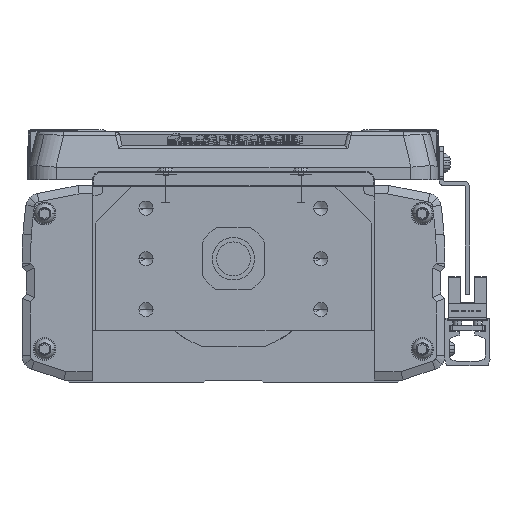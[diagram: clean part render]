
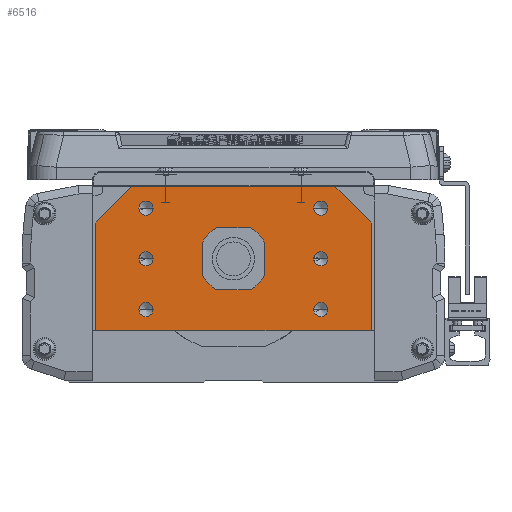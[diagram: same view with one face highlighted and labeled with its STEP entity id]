
A CAD part, left-side view. The second image highlights one B-rep face of the part: STEP entity #6516.
In plain terms, the highlighted planar face has unit normal (-1, 0, 0).
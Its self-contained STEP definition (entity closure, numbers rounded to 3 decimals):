
#6516=ADVANCED_FACE('',(#13843,#13844,#13845,#13846,#13847,#13848,#13849,#13850),#13851,.F.);
#13843=FACE_OUTER_BOUND('',#23088,.T.);
#13844=FACE_BOUND('',#23089,.T.);
#13845=FACE_BOUND('',#23090,.T.);
#13846=FACE_BOUND('',#23091,.T.);
#13847=FACE_BOUND('',#23092,.T.);
#13848=FACE_BOUND('',#23093,.T.);
#13849=FACE_BOUND('',#23094,.T.);
#13850=FACE_BOUND('',#23095,.T.);
#13851=PLANE('',#23096);
#23088=EDGE_LOOP('',(#41570,#41571,#41572,#41573,#41574,#41575,#41576,#41577));
#23089=EDGE_LOOP('',(#41578,#41579));
#23090=EDGE_LOOP('',(#41580,#41581));
#23091=EDGE_LOOP('',(#41582,#41583));
#23092=EDGE_LOOP('',(#41584,#41585));
#23093=EDGE_LOOP('',(#41586,#41587));
#23094=EDGE_LOOP('',(#41588,#41589));
#23095=EDGE_LOOP('',(#41590,#41591));
#23096=AXIS2_PLACEMENT_3D('',#41592,#41593,#41594);
#41570=ORIENTED_EDGE('',*,*,#53256,.F.);
#41571=ORIENTED_EDGE('',*,*,#57041,.F.);
#41572=ORIENTED_EDGE('',*,*,#57042,.F.);
#41573=ORIENTED_EDGE('',*,*,#57043,.F.);
#41574=ORIENTED_EDGE('',*,*,#57044,.F.);
#41575=ORIENTED_EDGE('',*,*,#56374,.F.);
#41576=ORIENTED_EDGE('',*,*,#56722,.F.);
#41577=ORIENTED_EDGE('',*,*,#55483,.F.);
#41578=ORIENTED_EDGE('',*,*,#56716,.T.);
#41579=ORIENTED_EDGE('',*,*,#57045,.T.);
#41580=ORIENTED_EDGE('',*,*,#57046,.T.);
#41581=ORIENTED_EDGE('',*,*,#53348,.T.);
#41582=ORIENTED_EDGE('',*,*,#57047,.T.);
#41583=ORIENTED_EDGE('',*,*,#56526,.T.);
#41584=ORIENTED_EDGE('',*,*,#53541,.T.);
#41585=ORIENTED_EDGE('',*,*,#55701,.T.);
#41586=ORIENTED_EDGE('',*,*,#57048,.T.);
#41587=ORIENTED_EDGE('',*,*,#57049,.T.);
#41588=ORIENTED_EDGE('',*,*,#57050,.T.);
#41589=ORIENTED_EDGE('',*,*,#57051,.T.);
#41590=ORIENTED_EDGE('',*,*,#56747,.F.);
#41591=ORIENTED_EDGE('',*,*,#51491,.F.);
#41592=CARTESIAN_POINT('',(0.,0.275,-2.548));
#41593=DIRECTION('',(1.0,0.,0.));
#41594=DIRECTION('',(0.,1.0,0.));
#51491=EDGE_CURVE('',#62022,#62025,#62026,.F.);
#53256=EDGE_CURVE('',#64897,#64898,#64899,.T.);
#53348=EDGE_CURVE('',#65044,#65042,#65045,.T.);
#53541=EDGE_CURVE('',#65327,#65331,#65333,.T.);
#55483=EDGE_CURVE('',#64898,#68183,#68184,.T.);
#55701=EDGE_CURVE('',#65331,#65327,#68470,.T.);
#56374=EDGE_CURVE('',#69347,#69350,#69351,.T.);
#56526=EDGE_CURVE('',#69552,#69550,#69553,.T.);
#56716=EDGE_CURVE('',#69786,#69790,#69792,.T.);
#56722=EDGE_CURVE('',#68183,#69347,#69799,.T.);
#56747=EDGE_CURVE('',#62025,#62022,#69828,.F.);
#57041=EDGE_CURVE('',#70197,#64897,#70198,.T.);
#57042=EDGE_CURVE('',#70199,#70197,#70200,.T.);
#57043=EDGE_CURVE('',#70201,#70199,#70202,.T.);
#57044=EDGE_CURVE('',#69350,#70201,#70203,.T.);
#57045=EDGE_CURVE('',#69790,#69786,#70204,.T.);
#57046=EDGE_CURVE('',#65042,#65044,#70205,.T.);
#57047=EDGE_CURVE('',#69550,#69552,#70206,.T.);
#57048=EDGE_CURVE('',#70207,#70208,#70209,.T.);
#57049=EDGE_CURVE('',#70208,#70207,#70210,.T.);
#57050=EDGE_CURVE('',#70211,#70212,#70213,.T.);
#57051=EDGE_CURVE('',#70212,#70211,#70214,.T.);
#62022=VERTEX_POINT('',#76597);
#62025=VERTEX_POINT('',#76601);
#62026=CIRCLE('',#76602,7.5);
#64897=VERTEX_POINT('',#80812);
#64898=VERTEX_POINT('',#80813);
#64899=LINE('',#80814,#80815);
#65042=VERTEX_POINT('',#81026);
#65044=VERTEX_POINT('',#81029);
#65045=CIRCLE('',#81030,2.5);
#65327=VERTEX_POINT('',#81497);
#65331=VERTEX_POINT('',#81502);
#65333=CIRCLE('',#81505,2.5);
#68183=VERTEX_POINT('',#85868);
#68184=LINE('',#85869,#85870);
#68470=CIRCLE('',#86452,2.5);
#69347=VERTEX_POINT('',#87630);
#69350=VERTEX_POINT('',#87634);
#69351=LINE('',#87635,#87636);
#69550=VERTEX_POINT('',#87907);
#69552=VERTEX_POINT('',#87910);
#69553=CIRCLE('',#87911,2.5);
#69786=VERTEX_POINT('',#88219);
#69790=VERTEX_POINT('',#88224);
#69792=CIRCLE('',#88227,2.5);
#69799=LINE('',#88236,#88237);
#69828=CIRCLE('',#88275,7.5);
#70197=VERTEX_POINT('',#88774);
#70198=LINE('',#88775,#88776);
#70199=VERTEX_POINT('',#88777);
#70200=LINE('',#88778,#88779);
#70201=VERTEX_POINT('',#88780);
#70202=LINE('',#88781,#88782);
#70203=LINE('',#88783,#88784);
#70204=CIRCLE('',#88785,2.5);
#70205=CIRCLE('',#88786,2.5);
#70206=CIRCLE('',#88787,2.5);
#70207=VERTEX_POINT('',#88788);
#70208=VERTEX_POINT('',#88789);
#70209=CIRCLE('',#88790,2.5);
#70210=CIRCLE('',#88791,2.5);
#70211=VERTEX_POINT('',#88792);
#70212=VERTEX_POINT('',#88793);
#70213=CIRCLE('',#88794,2.5);
#70214=CIRCLE('',#88795,2.5);
#76597=CARTESIAN_POINT('',(0.,-7.5,0.));
#76601=CARTESIAN_POINT('',(0.,7.5,0.));
#76602=AXIS2_PLACEMENT_3D('',#93888,#93889,#93890);
#80812=CARTESIAN_POINT('',(0.,49.,12.7));
#80813=CARTESIAN_POINT('',(0.,36.,25.7));
#80814=CARTESIAN_POINT('',(0.,37.381,24.319));
#80815=VECTOR('',#96320,10.);
#81026=CARTESIAN_POINT('',(0.,-33.5,-18.));
#81029=CARTESIAN_POINT('',(0.,-28.5,-18.));
#81030=AXIS2_PLACEMENT_3D('',#96430,#96431,#96432);
#81497=CARTESIAN_POINT('',(0.,-33.5,18.));
#81502=CARTESIAN_POINT('',(0.,-28.5,18.));
#81505=AXIS2_PLACEMENT_3D('',#96678,#96679,#96680);
#85868=CARTESIAN_POINT('',(0.,-36.,25.7));
#85869=CARTESIAN_POINT('',(0.,34.5,25.7));
#85870=VECTOR('',#99115,10.0);
#86452=AXIS2_PLACEMENT_3D('',#99358,#99359,#99360);
#87630=CARTESIAN_POINT('',(0.,-49.,12.7));
#87634=CARTESIAN_POINT('',(0.,-49.,-25.));
#87635=CARTESIAN_POINT('',(0.,-49.,-14.));
#87636=VECTOR('',#100144,10.0);
#87907=CARTESIAN_POINT('',(0.,33.5,18.));
#87910=CARTESIAN_POINT('',(0.,28.5,18.));
#87911=AXIS2_PLACEMENT_3D('',#100317,#100318,#100319);
#88219=CARTESIAN_POINT('',(0.,33.5,-18.));
#88224=CARTESIAN_POINT('',(0.,28.5,-18.));
#88227=AXIS2_PLACEMENT_3D('',#100526,#100527,#100528);
#88236=CARTESIAN_POINT('',(0.,-37.243,24.457));
#88237=VECTOR('',#100534,10.0);
#88275=AXIS2_PLACEMENT_3D('',#100565,#100566,#100567);
#88774=CARTESIAN_POINT('',(0.,49.,-25.));
#88775=CARTESIAN_POINT('',(0.,49.,-25.));
#88776=VECTOR('',#100920,10.0);
#88777=CARTESIAN_POINT('',(0.,48.5,-25.5));
#88778=CARTESIAN_POINT('',(0.,48.5,-25.5));
#88779=VECTOR('',#100921,10.0);
#88780=CARTESIAN_POINT('',(0.,-48.5,-25.5));
#88781=CARTESIAN_POINT('',(0.,0.,-25.5));
#88782=VECTOR('',#100922,10.0);
#88783=CARTESIAN_POINT('',(0.,-49.,-25.));
#88784=VECTOR('',#100923,10.0);
#88785=AXIS2_PLACEMENT_3D('',#100924,#100925,#100926);
#88786=AXIS2_PLACEMENT_3D('',#100927,#100928,#100929);
#88787=AXIS2_PLACEMENT_3D('',#100930,#100931,#100932);
#88788=CARTESIAN_POINT('',(0.,33.5,0.));
#88789=CARTESIAN_POINT('',(0.,28.5,0.));
#88790=AXIS2_PLACEMENT_3D('',#100933,#100934,#100935);
#88791=AXIS2_PLACEMENT_3D('',#100936,#100937,#100938);
#88792=CARTESIAN_POINT('',(0.,-33.5,0.));
#88793=CARTESIAN_POINT('',(0.,-28.5,0.));
#88794=AXIS2_PLACEMENT_3D('',#100939,#100940,#100941);
#88795=AXIS2_PLACEMENT_3D('',#100942,#100943,#100944);
#93888=CARTESIAN_POINT('',(0.,0.,0.));
#93889=DIRECTION('',(1.0,0.,0.));
#93890=DIRECTION('',(0.,-1.0,0.));
#96320=DIRECTION('',(0.,-0.707,0.707));
#96430=CARTESIAN_POINT('',(0.,-31.,-18.));
#96431=DIRECTION('',(1.0,0.,0.));
#96432=DIRECTION('',(0.,-1.0,0.));
#96678=CARTESIAN_POINT('',(0.,-31.,18.));
#96679=DIRECTION('',(1.0,0.,0.));
#96680=DIRECTION('',(0.,-1.0,0.));
#99115=DIRECTION('',(0.,-1.0,0.));
#99358=CARTESIAN_POINT('',(0.,-31.,18.));
#99359=DIRECTION('',(1.0,0.,0.));
#99360=DIRECTION('',(0.,-1.0,0.));
#100144=DIRECTION('',(0.,0.,-1.0));
#100317=CARTESIAN_POINT('',(0.,31.,18.));
#100318=DIRECTION('',(1.0,0.,0.));
#100319=DIRECTION('',(0.,1.0,0.));
#100526=CARTESIAN_POINT('',(0.,31.,-18.));
#100527=DIRECTION('',(1.0,0.,0.));
#100528=DIRECTION('',(0.,1.0,0.));
#100534=DIRECTION('',(0.,-0.707,-0.707));
#100565=CARTESIAN_POINT('',(0.,0.,0.));
#100566=DIRECTION('',(1.0,0.,0.));
#100567=DIRECTION('',(0.,-1.0,0.));
#100920=DIRECTION('',(0.,0.,1.0));
#100921=DIRECTION('',(0.,0.707,0.707));
#100922=DIRECTION('',(0.,1.0,0.));
#100923=DIRECTION('',(0.,0.707,-0.707));
#100924=CARTESIAN_POINT('',(0.,31.,-18.));
#100925=DIRECTION('',(1.0,0.,0.));
#100926=DIRECTION('',(0.,1.0,0.));
#100927=CARTESIAN_POINT('',(0.,-31.,-18.));
#100928=DIRECTION('',(1.0,0.,0.));
#100929=DIRECTION('',(0.,-1.0,0.));
#100930=CARTESIAN_POINT('',(0.,31.,18.));
#100931=DIRECTION('',(1.0,0.,0.));
#100932=DIRECTION('',(0.,1.0,0.));
#100933=CARTESIAN_POINT('',(0.,31.,0.));
#100934=DIRECTION('',(1.0,0.,0.));
#100935=DIRECTION('',(0.,1.0,0.));
#100936=CARTESIAN_POINT('',(0.,31.,0.));
#100937=DIRECTION('',(1.0,0.,0.));
#100938=DIRECTION('',(0.,1.0,0.));
#100939=CARTESIAN_POINT('',(0.,-31.,0.));
#100940=DIRECTION('',(1.0,0.,0.));
#100941=DIRECTION('',(0.,-1.0,0.));
#100942=CARTESIAN_POINT('',(0.,-31.,0.));
#100943=DIRECTION('',(1.0,0.,0.));
#100944=DIRECTION('',(0.,-1.0,0.));
